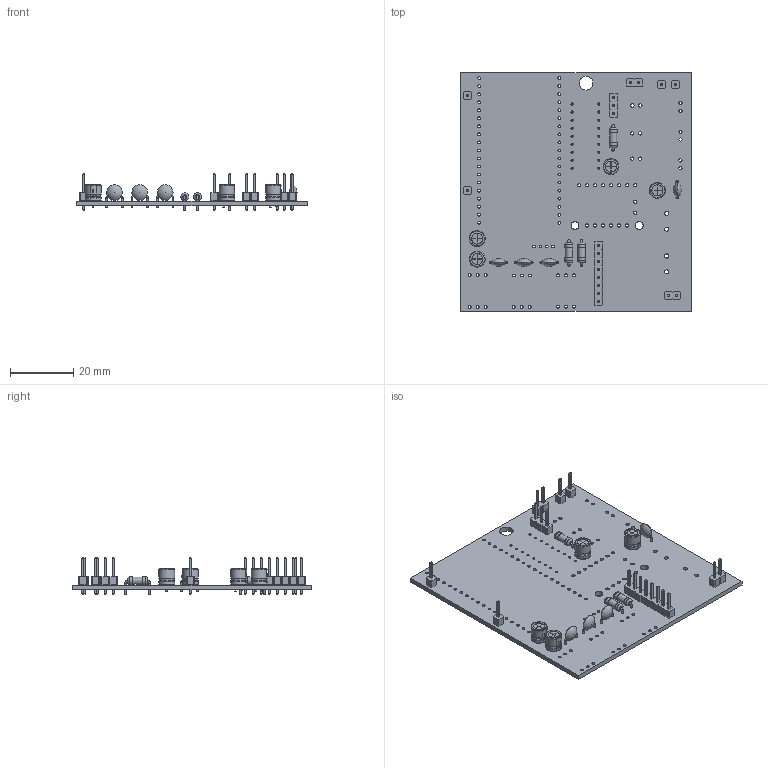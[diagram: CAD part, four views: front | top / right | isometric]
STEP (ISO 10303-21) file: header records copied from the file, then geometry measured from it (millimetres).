
FILE_DESCRIPTION(('KiCad electronic assembly'),'2;1');
FILE_NAME('Themio.step','2026-05-02T15:59:15',('Pcbnew'),('Kicad'), 'Open CASCADE STEP processor 7.8','KiCad to STEP converter','Unknown' );
FILE_SCHEMA(('AUTOMOTIVE_DESIGN { 1 0 10303 214 1 1 1 1 }'));
Length unit declared in the file: millimetre
Products named in the file (9): Themio 1; PinHeader_1x02_P2.54mm_Vertical; C_Disc_D5.0mm_W2.5mm_P5.00mm; PinHeader_1x03_P2.54mm_Vertical; CP_Radial_D5.0mm_P2.00mm; R_Axial_DIN0207_L6.3mm_D2.5mm_P7.62mm_Horizontal; PinHeader_1x01_P2.54mm_Vertical; PinHeader_1x08_P2.54mm_Vertical; Themio_PCB
Assembly tree (20 placements, depth 2):
  Themio 1
    PinHeader_1x02_P2.54mm_Vertical  x2
    C_Disc_D5.0mm_W2.5mm_P5.00mm  x4
    PinHeader_1x03_P2.54mm_Vertical
    CP_Radial_D5.0mm_P2.00mm  x4
    R_Axial_DIN0207_L6.3mm_D2.5mm_P7.62mm_Horizontal  x3
    PinHeader_1x01_P2.54mm_Vertical  x4
    PinHeader_1x08_P2.54mm_Vertical
    Themio_PCB
Bounding box: 73 x 75.5 x 11.54 mm (x, y, z)
Volume: 9083.8 mm3; surface area: 13977.4 mm2
Topology: 20 solids, 24 shells, 929 faces, 2257 edges, 1426 vertices
Faces by surface type: plane 612, cylinder 237, revolution 28, bspline 24, torus 20, sphere 8
Full cylindrical faces by diameter (mm): 0.5 x24, 0.6 x6, 0.67 x18, 0.8 x22, 0.85 x4, 0.9 x56, 1 x41, 1.05 x6, 1.3 x4, 2.25 x3, 2.5 x8, 4.3 x1
Entity records: 22368 total; most frequent: CARTESIAN_POINT 4246, DIRECTION 3026, ORIENTED_EDGE 2944, EDGE_CURVE 1472, LINE 1059, VECTOR 1059, AXIS2_PLACEMENT_3D 980, VERTEX_POINT 938
